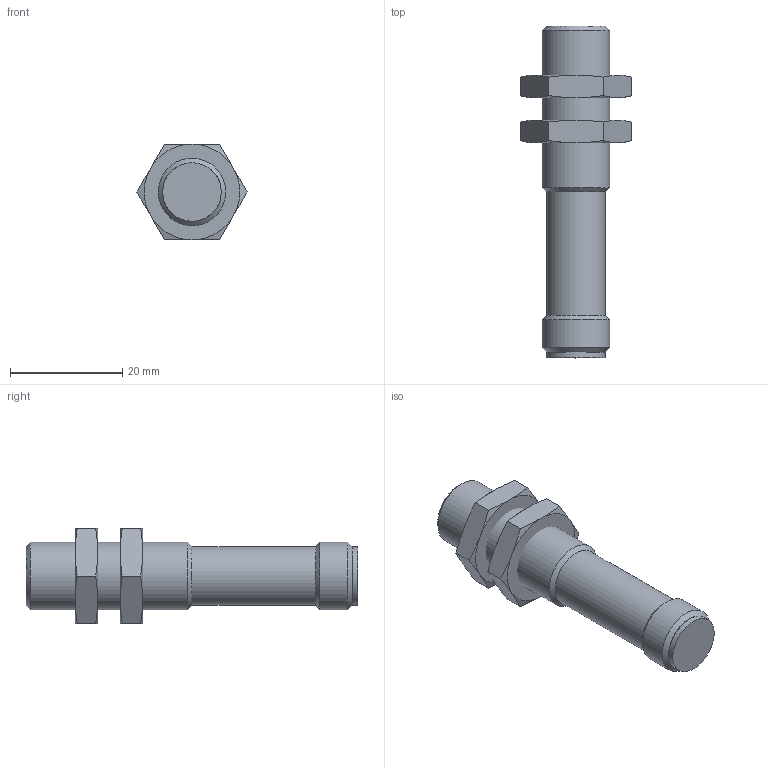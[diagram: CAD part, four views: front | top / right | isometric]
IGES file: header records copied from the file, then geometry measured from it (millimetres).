
Global section: file name: 153-00345_FS_FE 12 RL; native system: Autodesk Inventor 2022; preprocessor: unknown; author: Sandra.Stahl; date: 20230413.080924; units: millimetre
Bounding box: 19.63 x 59.05 x 17 mm (x, y, z)
Volume: 8017.1 mm3; surface area: 3774.6 mm2
Topology: 3 solids, 3 shells, 51 faces, 112 edges, 69 vertices
Faces by surface type: bspline 51
